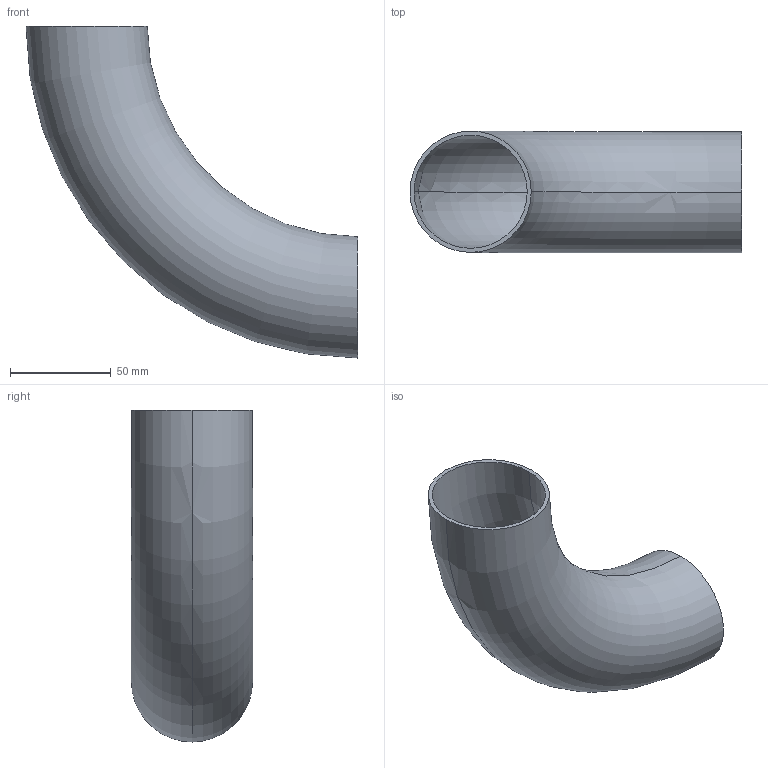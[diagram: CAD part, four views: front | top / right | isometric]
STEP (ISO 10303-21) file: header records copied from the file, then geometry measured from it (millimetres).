
FILE_DESCRIPTION (( 'STEP AP203' ), '1' );
FILE_NAME ('3D_R1655_60.3x2_17362210_17362600.STEP', '2024-08-05T08:53:47', ( '' ), ( '' ), 'SwSTEP 2.0', 'SolidWorks 2024', '' );
FILE_SCHEMA (( 'CONFIG_CONTROL_DESIGN' ));
Length unit declared in the file: millimetre
Products named in the file (1): 3D_R1655_60.3x2_17362210_17362600
Bounding box: 165.15 x 60.3 x 165.15 mm (x, y, z)
Volume: 77678.7 mm3; surface area: 78411.3 mm2
Topology: 1 solids, 1 shells, 6 faces, 12 edges, 8 vertices
Faces by surface type: torus 4, plane 2
Entity records: 249 total; most frequent: DIRECTION 38, CARTESIAN_POINT 27, ORIENTED_EDGE 24, AXIS2_PLACEMENT_3D 19, CIRCLE 12, EDGE_CURVE 12, VERTEX_POINT 8, EDGE_LOOP 8
